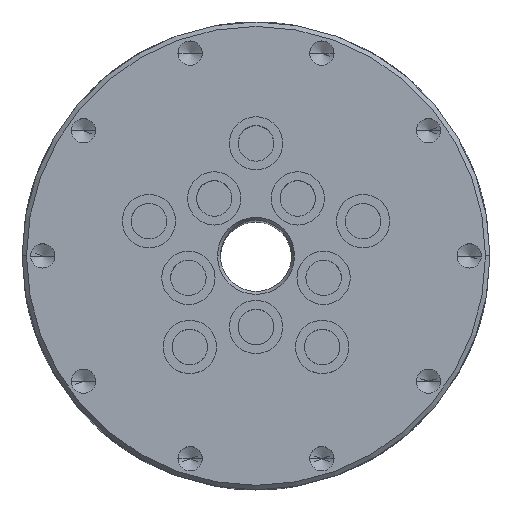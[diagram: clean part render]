
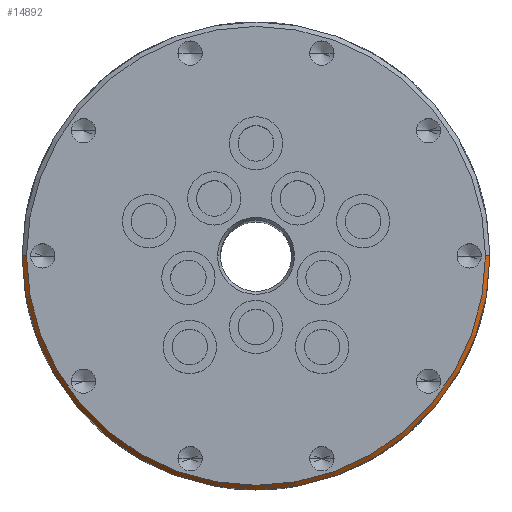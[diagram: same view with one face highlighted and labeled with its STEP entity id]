
A CAD part, top view. The second image highlights one B-rep face of the part: STEP entity #14892.
In plain terms, the highlighted conical face has half-angle 45 degrees and reference radius 61.506 mm.
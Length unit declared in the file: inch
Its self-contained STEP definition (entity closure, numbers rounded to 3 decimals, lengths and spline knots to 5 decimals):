
#227 = ORIENTED_EDGE ( 'NONE', *, *, #14070, .F. ) ;
#228 = ORIENTED_EDGE ( 'NONE', *, *, #14877, .F. ) ;
#229 = ORIENTED_EDGE ( 'NONE', *, *, #14273, .T. ) ;
#230 = ORIENTED_EDGE ( 'NONE', *, *, #14329, .F. ) ;
#1326 = EDGE_LOOP ( 'NONE', ( #227, #228, #229, #230 ) ) ;
#4512 = AXIS2_PLACEMENT_3D ( 'NONE', #12769, #12770, #12771 ) ;
#4984 = CIRCLE ( 'NONE', #4985, 2.4685 ) ;
#4985 = AXIS2_PLACEMENT_3D ( 'NONE', #6784, #6785, #6786 ) ;
#5055 = CIRCLE ( 'NONE', #4512, 2.4215 ) ;
#5190 = CONICAL_SURFACE ( 'NONE', #5203, 2.4215, 0.785 ) ;
#5203 = AXIS2_PLACEMENT_3D ( 'NONE', #12914, #12916, #12912 ) ;
#5271 = LINE ( 'NONE', #5273, #13344 ) ;
#5273 = CARTESIAN_POINT ( 'NONE',  ( 2.4215, 0., 0. ) ) ;
#5274 = DIRECTION ( 'NONE',  ( 0.707, 0., -0.707 ) ) ;
#6302 = VECTOR ( 'NONE', #10064, 39.37008 ) ;
#6682 = VERTEX_POINT ( 'NONE', #8908 ) ;
#6683 = VERTEX_POINT ( 'NONE', #8909 ) ;
#6685 = VERTEX_POINT ( 'NONE', #8911 ) ;
#6688 = VERTEX_POINT ( 'NONE', #8914 ) ;
#6784 = CARTESIAN_POINT ( 'NONE',  ( 0., 0., -0.047 ) ) ;
#6785 = DIRECTION ( 'NONE',  ( 0., 0., -1. ) ) ;
#6786 = DIRECTION ( 'NONE',  ( -1., 0., 0. ) ) ;
#8908 = CARTESIAN_POINT ( 'NONE',  ( 2.4685, 0., -0.047 ) ) ;
#8909 = CARTESIAN_POINT ( 'NONE',  ( -2.4685, 0., -0.047 ) ) ;
#8911 = CARTESIAN_POINT ( 'NONE',  ( -2.4215, 0., 0. ) ) ;
#8914 = CARTESIAN_POINT ( 'NONE',  ( 2.4215, 0., 0. ) ) ;
#10062 = LINE ( 'NONE', #10063, #6302 ) ;
#10063 = CARTESIAN_POINT ( 'NONE',  ( -2.4215, 0., 0. ) ) ;
#10064 = DIRECTION ( 'NONE',  ( -0.707, 0., -0.707 ) ) ;
#12769 = CARTESIAN_POINT ( 'NONE',  ( 0., 0., 0. ) ) ;
#12770 = DIRECTION ( 'NONE',  ( 0., 0., 1. ) ) ;
#12771 = DIRECTION ( 'NONE',  ( -1., 0., 0. ) ) ;
#12912 = DIRECTION ( 'NONE',  ( -1., 0., 0. ) ) ;
#12914 = CARTESIAN_POINT ( 'NONE',  ( 0., 0., 0. ) ) ;
#12915 = FACE_OUTER_BOUND ( 'NONE', #1326, .T. ) ;
#12916 = DIRECTION ( 'NONE',  ( 0., 0., -1. ) ) ;
#13344 = VECTOR ( 'NONE', #5274, 39.37008 ) ;
#14070 = EDGE_CURVE ( 'NONE', #6688, #6682, #5271, .T. ) ;
#14273 = EDGE_CURVE ( 'NONE', #6685, #6683, #10062, .T. ) ;
#14329 = EDGE_CURVE ( 'NONE', #6682, #6683, #4984, .T. ) ;
#14877 = EDGE_CURVE ( 'NONE', #6685, #6688, #5055, .T. ) ;
#14892 = ADVANCED_FACE ( 'NONE', ( #12915 ), #5190, .T. ) ;
